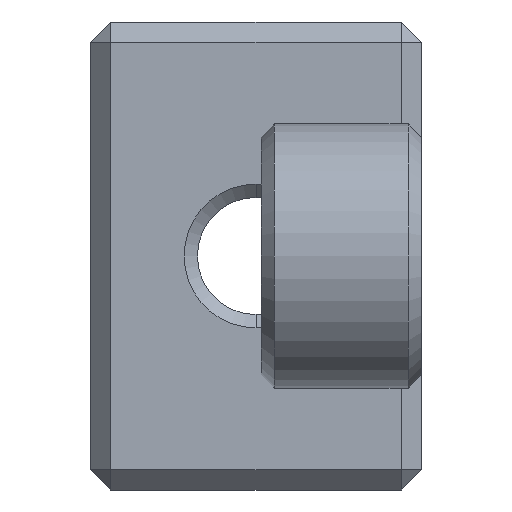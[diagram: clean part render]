
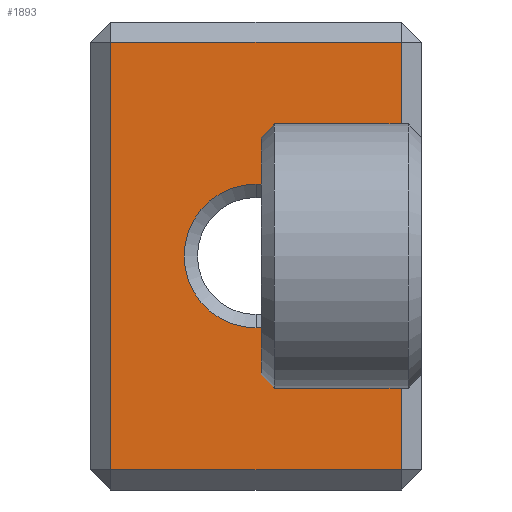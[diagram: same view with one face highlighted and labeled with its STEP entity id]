
A CAD part, left-side view. The second image highlights one B-rep face of the part: STEP entity #1893.
In plain terms, the highlighted planar face has unit normal (-1, 0, 0).
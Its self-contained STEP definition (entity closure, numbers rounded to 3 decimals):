
#56 = DIRECTION ( 'NONE',  ( 0., 0., -1. ) ) ;
#79 = CARTESIAN_POINT ( 'NONE',  ( 0., 0., 0.6 ) ) ;
#106 = VECTOR ( 'NONE', #1647, 1000. ) ;
#120 = VECTOR ( 'NONE', #1520, 1000. ) ;
#133 = EDGE_CURVE ( 'NONE', #2149, #854, #655, .T. ) ;
#173 = LINE ( 'NONE', #1685, #106 ) ;
#200 = VERTEX_POINT ( 'NONE', #525 ) ;
#251 = EDGE_CURVE ( 'NONE', #200, #2149, #173, .T. ) ;
#260 = LINE ( 'NONE', #618, #120 ) ;
#331 = ORIENTED_EDGE ( 'NONE', *, *, #1808, .T. ) ;
#332 = AXIS2_PLACEMENT_3D ( 'NONE', #2093, #1151, #56 ) ;
#346 = FACE_BOUND ( 'NONE', #1296, .T. ) ;
#356 = CARTESIAN_POINT ( 'NONE',  ( 0., 0.6, 13.4 ) ) ;
#379 = AXIS2_PLACEMENT_3D ( 'NONE', #926, #2036, #1104 ) ;
#380 = ORIENTED_EDGE ( 'NONE', *, *, #133, .T. ) ;
#462 = ORIENTED_EDGE ( 'NONE', *, *, #251, .T. ) ;
#525 = CARTESIAN_POINT ( 'NONE',  ( 0., 9.3, 13.4 ) ) ;
#572 = CARTESIAN_POINT ( 'NONE',  ( 0., 0., 3. ) ) ;
#585 = VECTOR ( 'NONE', #1312, 1000. ) ;
#610 = EDGE_CURVE ( 'NONE', #1196, #200, #260, .T. ) ;
#618 = CARTESIAN_POINT ( 'NONE',  ( 0., 9.9, 13.4 ) ) ;
#655 = LINE ( 'NONE', #79, #585 ) ;
#740 = EDGE_CURVE ( 'NONE', #854, #1196, #1634, .T. ) ;
#764 = VERTEX_POINT ( 'NONE', #1605 ) ;
#842 = CARTESIAN_POINT ( 'NONE',  ( 0., 0.6, 0.6 ) ) ;
#854 = VERTEX_POINT ( 'NONE', #842 ) ;
#869 = ORIENTED_EDGE ( 'NONE', *, *, #610, .T. ) ;
#926 = CARTESIAN_POINT ( 'NONE',  ( 0., 4.95, 7. ) ) ;
#927 = ORIENTED_EDGE ( 'NONE', *, *, #740, .T. ) ;
#1104 = DIRECTION ( 'NONE',  ( 0., 0., -1. ) ) ;
#1126 = CIRCLE ( 'NONE', #332, 2.15 ) ;
#1151 = DIRECTION ( 'NONE',  ( 1., 0., 0. ) ) ;
#1196 = VERTEX_POINT ( 'NONE', #356 ) ;
#1296 = EDGE_LOOP ( 'NONE', ( #331, #1534 ) ) ;
#1312 = DIRECTION ( 'NONE',  ( 0., -1., 0. ) ) ;
#1391 = FACE_OUTER_BOUND ( 'NONE', #1511, .T. ) ;
#1470 = CIRCLE ( 'NONE', #379, 2.15 ) ;
#1484 = DIRECTION ( 'NONE',  ( 0., 0., 1. ) ) ;
#1511 = EDGE_LOOP ( 'NONE', ( #927, #869, #462, #380 ) ) ;
#1515 = VECTOR ( 'NONE', #1484, 1000. ) ;
#1520 = DIRECTION ( 'NONE',  ( 0., 1., 0. ) ) ;
#1534 = ORIENTED_EDGE ( 'NONE', *, *, #1990, .T. ) ;
#1566 = VERTEX_POINT ( 'NONE', #1802 ) ;
#1589 = DIRECTION ( 'NONE',  ( 1., 0., 0. ) ) ;
#1605 = CARTESIAN_POINT ( 'NONE',  ( 0., 4.95, 9.15 ) ) ;
#1631 = AXIS2_PLACEMENT_3D ( 'NONE', #572, #1589, #2062 ) ;
#1634 = LINE ( 'NONE', #2137, #1515 ) ;
#1647 = DIRECTION ( 'NONE',  ( 0., 0., -1. ) ) ;
#1685 = CARTESIAN_POINT ( 'NONE',  ( 0., 9.3, 3. ) ) ;
#1802 = CARTESIAN_POINT ( 'NONE',  ( 0., 4.95, 4.85 ) ) ;
#1808 = EDGE_CURVE ( 'NONE', #764, #1566, #1470, .T. ) ;
#1810 = CARTESIAN_POINT ( 'NONE',  ( 0., 9.3, 0.6 ) ) ;
#1893 = ADVANCED_FACE ( 'NONE', ( #1391, #346 ), #1894, .F. ) ;
#1894 = PLANE ( 'NONE',  #1631 ) ;
#1990 = EDGE_CURVE ( 'NONE', #1566, #764, #1126, .T. ) ;
#2036 = DIRECTION ( 'NONE',  ( 1., 0., 0. ) ) ;
#2062 = DIRECTION ( 'NONE',  ( 0., 0., -1. ) ) ;
#2093 = CARTESIAN_POINT ( 'NONE',  ( 0., 4.95, 7. ) ) ;
#2137 = CARTESIAN_POINT ( 'NONE',  ( 0., 0.6, 3. ) ) ;
#2149 = VERTEX_POINT ( 'NONE', #1810 ) ;
